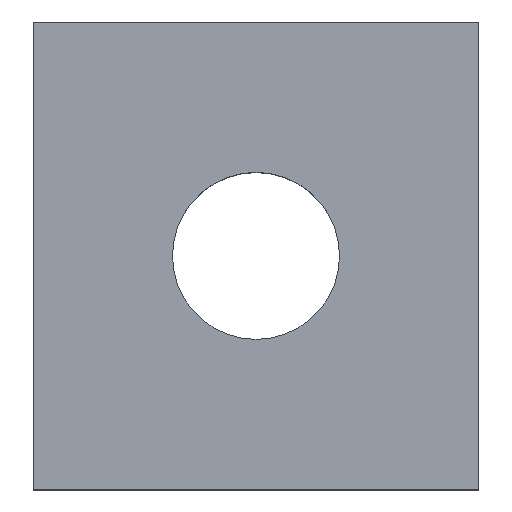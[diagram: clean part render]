
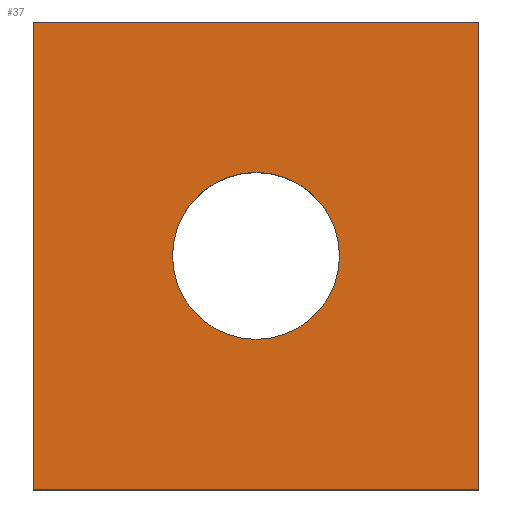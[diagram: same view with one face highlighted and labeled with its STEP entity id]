
A CAD part, top view. The second image highlights one B-rep face of the part: STEP entity #37.
In plain terms, the highlighted planar face has unit normal (0, 0, 1).
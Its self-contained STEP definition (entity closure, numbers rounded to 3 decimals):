
#37 = ADVANCED_FACE( '', ( #72, #73 ), #74, .F. );
#72 = FACE_BOUND( '', #103, .T. );
#73 = FACE_OUTER_BOUND( '', #104, .T. );
#74 = PLANE( '', #105 );
#103 = EDGE_LOOP( '', ( #140 ) );
#104 = EDGE_LOOP( '', ( #141, #142, #143, #144 ) );
#105 = AXIS2_PLACEMENT_3D( '', #145, #146, #147 );
#140 = ORIENTED_EDGE( '', *, *, #184, .T. );
#141 = ORIENTED_EDGE( '', *, *, #176, .F. );
#142 = ORIENTED_EDGE( '', *, *, #187, .F. );
#143 = ORIENTED_EDGE( '', *, *, #181, .F. );
#144 = ORIENTED_EDGE( '', *, *, #188, .F. );
#145 = CARTESIAN_POINT( '', ( 0., 0., 15. ) );
#146 = DIRECTION( '', ( 0., 0., -1. ) );
#147 = DIRECTION( '', ( -1., 0., 0. ) );
#176 = EDGE_CURVE( '', #198, #200, #201, .T. );
#181 = EDGE_CURVE( '', #207, #209, #210, .T. );
#184 = EDGE_CURVE( '', #213, #213, #214, .T. );
#187 = EDGE_CURVE( '', #209, #198, #218, .T. );
#188 = EDGE_CURVE( '', #200, #207, #219, .T. );
#198 = VERTEX_POINT( '', #230 );
#200 = VERTEX_POINT( '', #233 );
#201 = LINE( '', #234, #235 );
#207 = VERTEX_POINT( '', #243 );
#209 = VERTEX_POINT( '', #246 );
#210 = LINE( '', #247, #248 );
#213 = VERTEX_POINT( '', #252 );
#214 = CIRCLE( '', #253, 7.5 );
#218 = LINE( '', #257, #258 );
#219 = LINE( '', #259, #260 );
#230 = CARTESIAN_POINT( '', ( 40., 0., 15. ) );
#233 = CARTESIAN_POINT( '', ( 0., 0., 15. ) );
#234 = CARTESIAN_POINT( '', ( 40., 0., 15. ) );
#235 = VECTOR( '', #270, 1000. );
#243 = CARTESIAN_POINT( '', ( 0., 42., 15. ) );
#246 = CARTESIAN_POINT( '', ( 40., 42., 15. ) );
#247 = CARTESIAN_POINT( '', ( 0., 42., 15. ) );
#248 = VECTOR( '', #274, 1000. );
#252 = CARTESIAN_POINT( '', ( 27.5, 21., 15. ) );
#253 = AXIS2_PLACEMENT_3D( '', #276, #277, #278 );
#257 = CARTESIAN_POINT( '', ( 40., 42., 15. ) );
#258 = VECTOR( '', #282, 1000. );
#259 = CARTESIAN_POINT( '', ( 0., 0., 15. ) );
#260 = VECTOR( '', #283, 1000. );
#270 = DIRECTION( '', ( -1., 0., 0. ) );
#274 = DIRECTION( '', ( 1., 0., 0. ) );
#276 = CARTESIAN_POINT( '', ( 20., 21., 15. ) );
#277 = DIRECTION( '', ( 0., 0., -1. ) );
#278 = DIRECTION( '', ( 1., 0., 0. ) );
#282 = DIRECTION( '', ( 0., -1., 0. ) );
#283 = DIRECTION( '', ( 0., 1., 0. ) );
